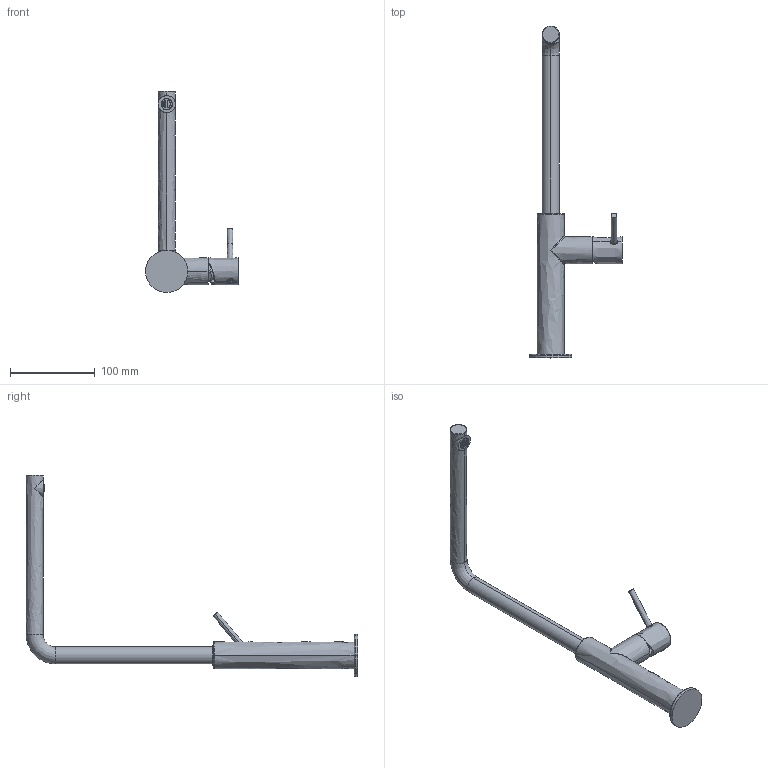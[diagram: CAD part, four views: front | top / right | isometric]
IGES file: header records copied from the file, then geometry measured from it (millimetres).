
Start section:  PTC IGES file: 12164.igs
Global section: file name: 12164.igs; native system: Creo Parametric by PTC Inc.; preprocessor: 2022014; author: carloff; organization: Unknown; date: 20241011.110535; units: millimetre
Bounding box: 109.9 x 392.5 x 238 mm (x, y, z)
Surface area: 61827.8 mm2 (no closed solid volume)
Topology: 0 solids, 0 shells, 433 faces, 2298 edges, 2292 vertices
Faces by surface type: revolution 228, bspline 205
